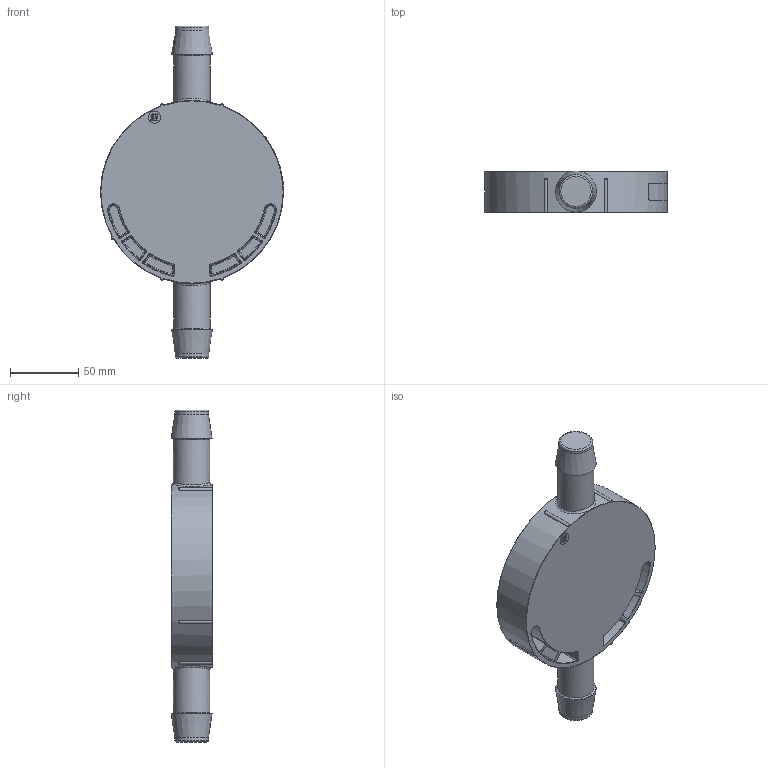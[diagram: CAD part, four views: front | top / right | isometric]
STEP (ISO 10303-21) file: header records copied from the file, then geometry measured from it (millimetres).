
FILE_DESCRIPTION(/* description */ (''),/* implementation_level */ '2;1');
FILE_NAME(/* name */ 'SDO8NZA1 External.stp',/* time_stamp */ '2024-02-12T15:47:17-05:00',/* author */ ('kdone'),/* organization */ (''),/* preprocessor_version */ 'ST-DEVELOPER v19.2',/* originating_system */ 'Autodesk Inventor 2023',/* authorisation */ '');
FILE_SCHEMA (('AUTOMOTIVE_DESIGN { 1 0 10303 214 3 1 1 }'));
Length unit declared in the file: inch
Products named in the file (1): SDO8NZA1-IM
Bounding box: 133.99 x 30.51 x 243.21 mm (x, y, z)
Volume: 465847.7 mm3; surface area: 59040.7 mm2
Topology: 9 solids, 9 shells, 374 faces, 925 edges, 563 vertices
Faces by surface type: plane 130, bspline 109, torus 64, cone 36, cylinder 35
Full cylindrical faces by diameter (mm): 8.89 x1, 24.74 x2, 26.67 x2, 133.985 x1
Entity records: 13493 total; most frequent: CARTESIAN_POINT 5333, ORIENTED_EDGE 1810, DIRECTION 1414, EDGE_CURVE 905, VERTEX_POINT 562, AXIS2_PLACEMENT_3D 495, LINE 424, VECTOR 424
